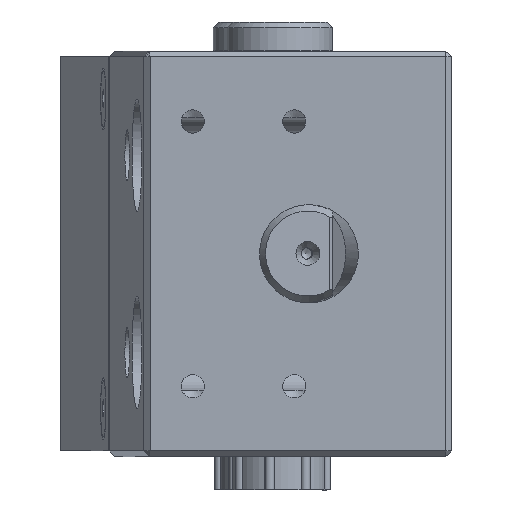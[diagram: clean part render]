
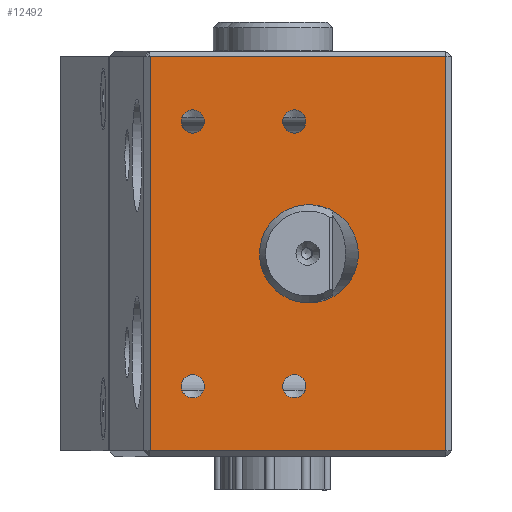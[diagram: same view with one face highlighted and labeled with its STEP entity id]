
A CAD part, left-side view. The second image highlights one B-rep face of the part: STEP entity #12492.
In plain terms, the highlighted planar face has unit normal (-1, 0, 0).
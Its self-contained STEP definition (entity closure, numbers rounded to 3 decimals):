
#488=CARTESIAN_POINT('',(0.,28.211,35.0));
#489=VERTEX_POINT('',#488);
#5305=CARTESIAN_POINT('',(0.,8.768,0.));
#5306=VERTEX_POINT('',#5305);
#5307=CARTESIAN_POINT('',(0.0,0.0,0.0));
#5308=DIRECTION('',(1.0,0.0,0.0));
#5309=DIRECTION('',(0.0,-1.0,0.0));
#5310=AXIS2_PLACEMENT_3D('',#5307,#5308,#5309);
#5311=ELLIPSE('',#5310,8.768,8.735);
#5312=EDGE_CURVE('',#5306,#5306,#5311,.T.);
#11704=CARTESIAN_POINT('',(0.,28.211,-35.0));
#11705=VERTEX_POINT('',#11704);
#11787=CARTESIAN_POINT('',(0.,28.211,-35.0));
#11788=DIRECTION('',(0.0,0.0,1.0));
#11789=VECTOR('',#11788,70.0);
#11790=LINE('',#11787,#11789);
#11791=EDGE_CURVE('',#11705,#489,#11790,.T.);
#11817=CARTESIAN_POINT('',(0.,-24.3,-35.0));
#11818=VERTEX_POINT('',#11817);
#11839=CARTESIAN_POINT('',(0.,-24.3,35.0));
#11840=VERTEX_POINT('',#11839);
#12348=CARTESIAN_POINT('',(0.,28.211,35.0));
#12349=DIRECTION('',(0.0,-1.0,0.0));
#12350=VECTOR('',#12349,52.511);
#12351=LINE('',#12348,#12350);
#12352=EDGE_CURVE('',#489,#11840,#12351,.T.);
#12383=CARTESIAN_POINT('',(0.,-24.3,35.0));
#12384=DIRECTION('',(0.0,0.0,-1.0));
#12385=VECTOR('',#12384,70.0);
#12386=LINE('',#12383,#12385);
#12387=EDGE_CURVE('',#11840,#11818,#12386,.T.);
#12405=CARTESIAN_POINT('',(0.,-24.3,-35.0));
#12406=DIRECTION('',(0.0,1.0,0.0));
#12407=VECTOR('',#12406,52.511);
#12408=LINE('',#12405,#12407);
#12409=EDGE_CURVE('',#11818,#11705,#12408,.T.);
#12434=CARTESIAN_POINT('',(0.,-25.3,0.0));
#12435=DIRECTION('',(-1.0,0.0,0.0));
#12436=DIRECTION('',(0.0,0.0,1.0));
#12437=AXIS2_PLACEMENT_3D('',#12434,#12435,#12436);
#12438=PLANE('',#12437);
#12439=ORIENTED_EDGE('',*,*,#11791,.F.);
#12440=ORIENTED_EDGE('',*,*,#12409,.F.);
#12441=ORIENTED_EDGE('',*,*,#12387,.F.);
#12442=ORIENTED_EDGE('',*,*,#12352,.F.);
#12443=EDGE_LOOP('',(#12439,#12440,#12441,#12442));
#12444=FACE_OUTER_BOUND('',#12443,.T.);
#12445=ORIENTED_EDGE('',*,*,#5312,.T.);
#12446=EDGE_LOOP('',(#12445));
#12447=FACE_BOUND('',#12446,.T.);
#12448=CARTESIAN_POINT('',(0.,2.6,-21.433));
#12449=VERTEX_POINT('',#12448);
#12450=CARTESIAN_POINT('',(0.,2.6,-23.5));
#12451=DIRECTION('',(1.0,0.0,0.0));
#12452=DIRECTION('',(0.0,0.0,1.0));
#12453=AXIS2_PLACEMENT_3D('',#12450,#12451,#12452);
#12454=CIRCLE('',#12453,2.067);
#12455=EDGE_CURVE('',#12449,#12449,#12454,.T.);
#12456=ORIENTED_EDGE('',*,*,#12455,.T.);
#12457=EDGE_LOOP('',(#12456));
#12458=FACE_BOUND('',#12457,.T.);
#12459=CARTESIAN_POINT('',(0.,20.6,-21.433));
#12460=VERTEX_POINT('',#12459);
#12461=CARTESIAN_POINT('',(0.,20.6,-23.5));
#12462=DIRECTION('',(1.0,0.0,0.0));
#12463=DIRECTION('',(0.0,0.0,1.0));
#12464=AXIS2_PLACEMENT_3D('',#12461,#12462,#12463);
#12465=CIRCLE('',#12464,2.067);
#12466=EDGE_CURVE('',#12460,#12460,#12465,.T.);
#12467=ORIENTED_EDGE('',*,*,#12466,.T.);
#12468=EDGE_LOOP('',(#12467));
#12469=FACE_BOUND('',#12468,.T.);
#12470=CARTESIAN_POINT('',(0.,2.6,25.567));
#12471=VERTEX_POINT('',#12470);
#12472=CARTESIAN_POINT('',(0.,2.6,23.5));
#12473=DIRECTION('',(1.0,0.0,0.0));
#12474=DIRECTION('',(0.0,0.0,1.0));
#12475=AXIS2_PLACEMENT_3D('',#12472,#12473,#12474);
#12476=CIRCLE('',#12475,2.067);
#12477=EDGE_CURVE('',#12471,#12471,#12476,.T.);
#12478=ORIENTED_EDGE('',*,*,#12477,.T.);
#12479=EDGE_LOOP('',(#12478));
#12480=FACE_BOUND('',#12479,.T.);
#12481=CARTESIAN_POINT('',(0.,20.6,25.567));
#12482=VERTEX_POINT('',#12481);
#12483=CARTESIAN_POINT('',(0.,20.6,23.5));
#12484=DIRECTION('',(1.0,0.0,0.0));
#12485=DIRECTION('',(0.0,0.0,1.0));
#12486=AXIS2_PLACEMENT_3D('',#12483,#12484,#12485);
#12487=CIRCLE('',#12486,2.067);
#12488=EDGE_CURVE('',#12482,#12482,#12487,.T.);
#12489=ORIENTED_EDGE('',*,*,#12488,.T.);
#12490=EDGE_LOOP('',(#12489));
#12491=FACE_BOUND('',#12490,.T.);
#12492=ADVANCED_FACE('',(#12444,#12447,#12458,#12469,#12480,#12491),#12438,.T.);
